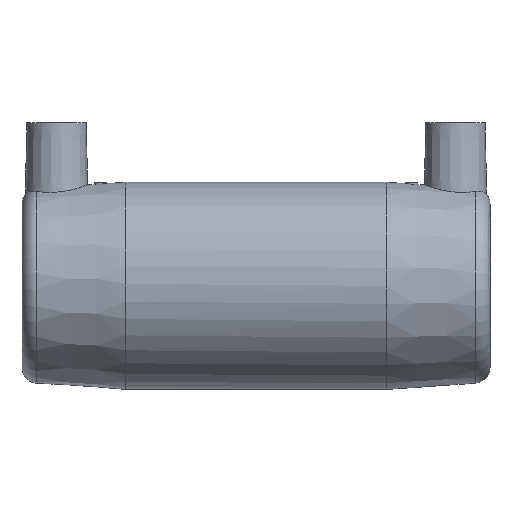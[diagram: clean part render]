
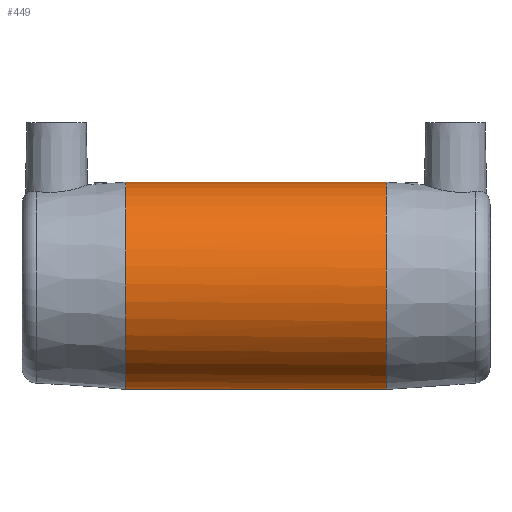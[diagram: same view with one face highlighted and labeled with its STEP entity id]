
A CAD part, front view. The second image highlights one B-rep face of the part: STEP entity #449.
In plain terms, the highlighted cylindrical face has radius 33 mm (diameter 66 mm), a full revolution.
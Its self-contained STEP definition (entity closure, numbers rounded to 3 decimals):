
#71=B_SPLINE_CURVE_WITH_KNOTS('',3,(#1018,#1019,#1020,#1021,#1022,#1023,
#1024,#1025,#1026,#1027,#1028,#1029,#1030,#1031,#1032,#1033,#1034,#1035,
#1036,#1037,#1038,#1039,#1040,#1041,#1042,#1043,#1044,#1045,#1046,#1047,
#1048,#1049,#1050,#1051,#1052,#1053,#1054,#1055,#1056,#1057,#1058,#1059,
#1060,#1061,#1062,#1063,#1064,#1065,#1066,#1067),.UNSPECIFIED.,.T.,.F.,
(1,1,1,1,1,1,1,1,1,1,1,1,1,1,1,1,1,1,1,1,1,1,1,1,1,1,1,1,1,1,1,1,1,1,1,
1,1,1,1,1,1,1,1,1,1,1,1,1,1,1,1,1,1,1),(-0.015,-0.012,
-0.006,0.,0.006,0.009,0.012,
0.018,0.021,0.023,0.029,
0.035,0.038,0.041,0.044,
0.047,0.05,0.053,0.059,
0.065,0.067,0.07,0.073,
0.076,0.079,0.082,0.088,
0.091,0.094,0.1,0.103,
0.106,0.111,0.117,0.123,
0.129,0.135,0.138,0.141,
0.144,0.147,0.15,0.152,
0.158,0.161,0.164,0.17,0.173,
0.176,0.182,0.188,0.194,
0.196,0.199),.UNSPECIFIED.);
#127=ORIENTED_EDGE('',*,*,#193,.T.);
#128=ORIENTED_EDGE('',*,*,#192,.F.);
#129=ORIENTED_EDGE('',*,*,#197,.T.);
#192=EDGE_CURVE('',#237,#237,#270,.T.);
#193=EDGE_CURVE('',#238,#238,#71,.T.);
#197=EDGE_CURVE('',#242,#242,#273,.T.);
#237=VERTEX_POINT('',#870);
#238=VERTEX_POINT('',#1068);
#242=VERTEX_POINT('',#1087);
#270=CIRCLE('',#513,33.);
#273=CIRCLE('',#519,33.);
#325=EDGE_LOOP('',(#127));
#326=EDGE_LOOP('',(#128));
#327=EDGE_LOOP('',(#129));
#393=FACE_BOUND('',#325,.T.);
#394=FACE_BOUND('',#326,.T.);
#395=FACE_BOUND('',#327,.T.);
#423=CYLINDRICAL_SURFACE('',#518,33.);
#449=ADVANCED_FACE('',(#393,#394,#395),#423,.T.);
#513=AXIS2_PLACEMENT_3D('',#869,#617,#618);
#518=AXIS2_PLACEMENT_3D('',#1085,#627,#628);
#519=AXIS2_PLACEMENT_3D('',#1086,#629,#630);
#617=DIRECTION('',(-1.,0.,0.));
#618=DIRECTION('',(0.,0.,1.));
#627=DIRECTION('',(-1.,0.,0.));
#628=DIRECTION('',(0.,0.,1.));
#629=DIRECTION('',(-1.,0.,0.));
#630=DIRECTION('',(0.,0.,1.));
#869=CARTESIAN_POINT('',(-41.5,0.,0.));
#870=CARTESIAN_POINT('',(-41.5,0.,33.));
#1018=CARTESIAN_POINT('',(28.286,32.639,-5.883));
#1019=CARTESIAN_POINT('',(28.982,33.18,0.004));
#1020=CARTESIAN_POINT('',(28.404,32.731,4.89));
#1021=CARTESIAN_POINT('',(27.348,31.922,8.517));
#1022=CARTESIAN_POINT('',(25.909,30.832,12.001));
#1023=CARTESIAN_POINT('',(24.013,29.429,15.083));
#1024=CARTESIAN_POINT('',(21.73,27.813,17.811));
#1025=CARTESIAN_POINT('',(19.265,26.133,20.242));
#1026=CARTESIAN_POINT('',(15.796,23.927,22.832));
#1027=CARTESIAN_POINT('',(11.872,21.821,24.789));
#1028=CARTESIAN_POINT('',(8.461,20.398,25.951));
#1029=CARTESIAN_POINT('',(5.73,19.527,26.608));
#1030=CARTESIAN_POINT('',(2.912,18.955,27.014));
#1031=CARTESIAN_POINT('',(-0.031,18.753,27.154));
#1032=CARTESIAN_POINT('',(-2.913,18.956,27.014));
#1033=CARTESIAN_POINT('',(-6.727,19.731,26.462));
#1034=CARTESIAN_POINT('',(-11.104,21.409,25.174));
#1035=CARTESIAN_POINT('',(-15.029,23.516,23.212));
#1036=CARTESIAN_POINT('',(-17.873,25.248,21.281));
#1037=CARTESIAN_POINT('',(-19.893,26.56,19.625));
#1038=CARTESIAN_POINT('',(-21.755,27.83,17.782));
#1039=CARTESIAN_POINT('',(-23.438,29.021,15.769));
#1040=CARTESIAN_POINT('',(-24.941,30.116,13.572));
#1041=CARTESIAN_POINT('',(-26.703,31.428,10.332));
#1042=CARTESIAN_POINT('',(-27.964,32.393,6.795));
#1043=CARTESIAN_POINT('',(-28.634,32.91,2.952));
#1044=CARTESIAN_POINT('',(-28.864,33.088,-0.901));
#1045=CARTESIAN_POINT('',(-28.417,32.741,-4.822));
#1046=CARTESIAN_POINT('',(-27.376,31.943,-8.434));
#1047=CARTESIAN_POINT('',(-25.95,30.863,-11.923));
#1048=CARTESIAN_POINT('',(-23.588,29.113,-15.788));
#1049=CARTESIAN_POINT('',(-19.999,26.6,-19.694));
#1050=CARTESIAN_POINT('',(-15.827,23.946,-22.811));
#1051=CARTESIAN_POINT('',(-11.138,21.422,-25.163));
#1052=CARTESIAN_POINT('',(-6.712,19.73,-26.463));
#1053=CARTESIAN_POINT('',(-2.942,18.959,-27.011));
#1054=CARTESIAN_POINT('',(0.,18.753,-27.154));
#1055=CARTESIAN_POINT('',(2.885,18.952,-27.016));
#1056=CARTESIAN_POINT('',(5.754,19.532,-26.604));
#1057=CARTESIAN_POINT('',(8.444,20.392,-25.955));
#1058=CARTESIAN_POINT('',(11.887,21.827,-24.785));
#1059=CARTESIAN_POINT('',(15.017,23.51,-23.218));
#1060=CARTESIAN_POINT('',(17.868,25.245,-21.285));
#1061=CARTESIAN_POINT('',(20.57,27.,-19.07));
#1062=CARTESIAN_POINT('',(22.937,28.657,-16.501));
#1063=CARTESIAN_POINT('',(24.946,30.119,-13.565));
#1064=CARTESIAN_POINT('',(26.711,31.434,-10.315));
#1065=CARTESIAN_POINT('',(28.286,32.639,-5.883));
#1066=CARTESIAN_POINT('',(28.982,33.18,0.004));
#1067=CARTESIAN_POINT('',(28.404,32.731,4.89));
#1068=CARTESIAN_POINT('',(28.75,33.,0.));
#1085=CARTESIAN_POINT('',(-60.,0.,0.));
#1086=CARTESIAN_POINT('',(41.5,0.,0.));
#1087=CARTESIAN_POINT('',(41.5,0.,33.));
